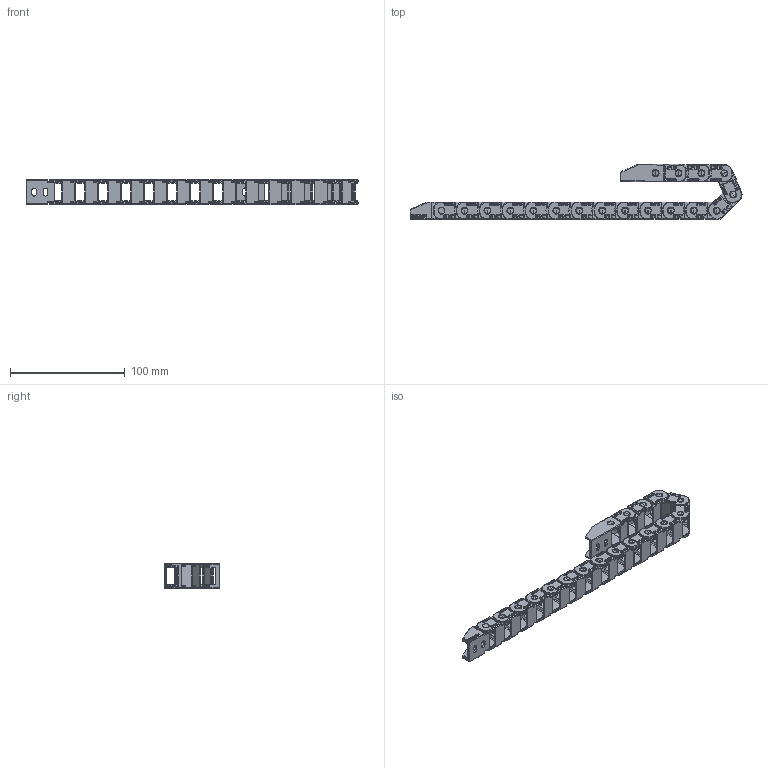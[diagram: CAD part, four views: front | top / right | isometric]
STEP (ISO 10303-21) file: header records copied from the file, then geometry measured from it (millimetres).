
FILE_DESCRIPTION (( 'STEP AP203' ), '1' );
FILE_NAME ('5F-J10QX15B-R18-3D祥褫羲郪璃芞.STEP', '2017-04-05T05:42:57', ( 'china' ), ( 'china' ), 'SwSTEP 2.0', 'SolidWorks 2016', '' );
FILE_SCHEMA (( 'CONFIG_CONTROL_DESIGN' ));
Length unit declared in the file: millimetre
Products named in the file (4): F-J10QX15B-ZT; J10Q-15B-XJT-W-FW; F-J10QX15B-XJT-N-FW; 5F-J10QX15B-R18-3D祥褫羲郪璃芞
Assembly tree (19 placements, depth 2):
  5F-J10QX15B-R18-3D祥褫羲郪璃芞
    F-J10QX15B-ZT  x17
    J10Q-15B-XJT-W-FW
    F-J10QX15B-XJT-N-FW
Bounding box: 289.46 x 48.19 x 21.8 mm (x, y, z)
Volume: 42894.2 mm3; surface area: 56706.3 mm2
Topology: 19 solids, 19 shells, 5127 faces, 13391 edges, 8600 vertices
Faces by surface type: plane 2315, bspline 1427, cylinder 907, torus 256, sphere 212, cone 10
Entity records: 29338 total; most frequent: CARTESIAN_POINT 12977, ORIENTED_EDGE 3490, DIRECTION 2687, EDGE_CURVE 1745, VERTEX_POINT 1124, LINE 1099, VECTOR 1099, AXIS2_PLACEMENT_3D 794
